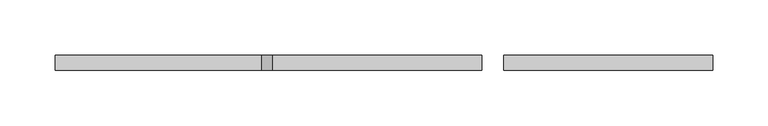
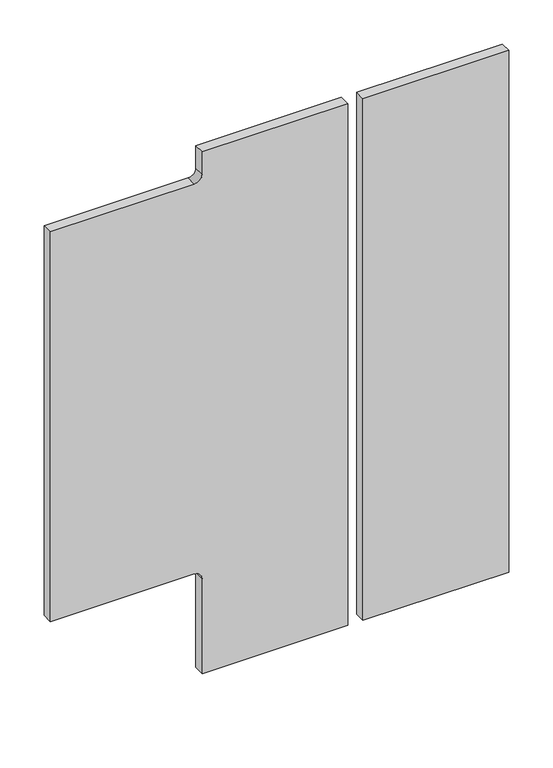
"""IFC4 building model written with IfcOpenShell, lengths in millimetres: fastener geometry, 主梁与次梁铰接节点2 : 主梁与次梁铰接节点1."""

from ifc_helpers import new_model, si_unit, point, frame, frame_2d, origin, place, context, project, spatial, polyline, circle_curve, trimmed, segment, composite_curve, outline, extrude, source, transform, mapped, element, save


def fastener_a57e30c7(model_context):
    return source(origin(), model_context, "Body", "SweptSolid", [
        extrude(outline(polyline([(-289.5250948, -4000.6516809), (-479.5250948, -4000.6516809), (-479.5250948, -3986.6516809), (-289.5250948, -3986.6516809), (-289.5250948, -4000.6516809)])), frame((0.0, 0.0, 2320.0), z_axis=(0.0, 0.0, 1.0), x_axis=(1.0, 0.0, 0.0)), (0.0, 0.0, 1.0), 720.0),
        extrude(outline(composite_curve([segment(polyline([(2999.0, -887.5250948), (2461.0, -887.5250948), (2461.0, -699.5250948)]), True, "CONTINUOUS"), segment(trimmed(circle_curve(frame_2d((2451.0, -699.5250948)), 10.0), [point((2461.0, -699.5250948))], [point((2451.0, -689.5250948))], True, "CARTESIAN"), True, "CONTINUOUS"), segment(polyline([(2451.0, -689.5250948), (2320.0, -689.5250948), (2320.0, -499.5250948), (3040.0, -499.5250948), (3040.0, -689.5250948), (3009.0, -689.5250948)]), True, "CONTINUOUS"), segment(trimmed(circle_curve(frame_2d((3009.0, -699.5250948)), 10.0), [point((3009.0, -689.5250948))], [point((2999.0, -699.5250948))], True, "CARTESIAN"), True, "CONTINUOUS"), segment(polyline([(2999.0, -699.5250948), (2999.0, -887.5250948)]), True, "CONTINUOUS")], self_intersect=False)), frame((0.0, -4000.6516809, 0.0), z_axis=(0.0, 1.0, 0.0), x_axis=(0.0, 0.0, 1.0)), (0.0, 0.0, 1.0), 14.0),
    ])


if __name__ == "__main__":
    model = new_model("IFC4")
    model_context = context("Model", 3, world=origin())
    ifc_project = project(units=[si_unit("LENGTHUNIT", "METRE", prefix="MILLI")], contexts=[model_context])
    site = spatial("IfcSite", under=ifc_project)
    building = spatial("IfcBuilding", under=site)
    placement = place(None, origin())
    fastener_shape = fastener_a57e30c7(model_context)
    element("IfcFastener", 1, ObjectType="主梁与次梁铰接节点2 : 主梁与次梁铰接节点1", at=placement, inside=building, context=model_context, shape_type="MappedRepresentation", body=[
        mapped(fastener_shape, transform((0.0, 0.0, 0.0), x_axis=(1.0, 0.0, 0.0), y_axis=(0.0, 1.0, 0.0), z_axis=(0.0, 0.0, 1.0))),
    ])
    save(model, "model.ifc")
